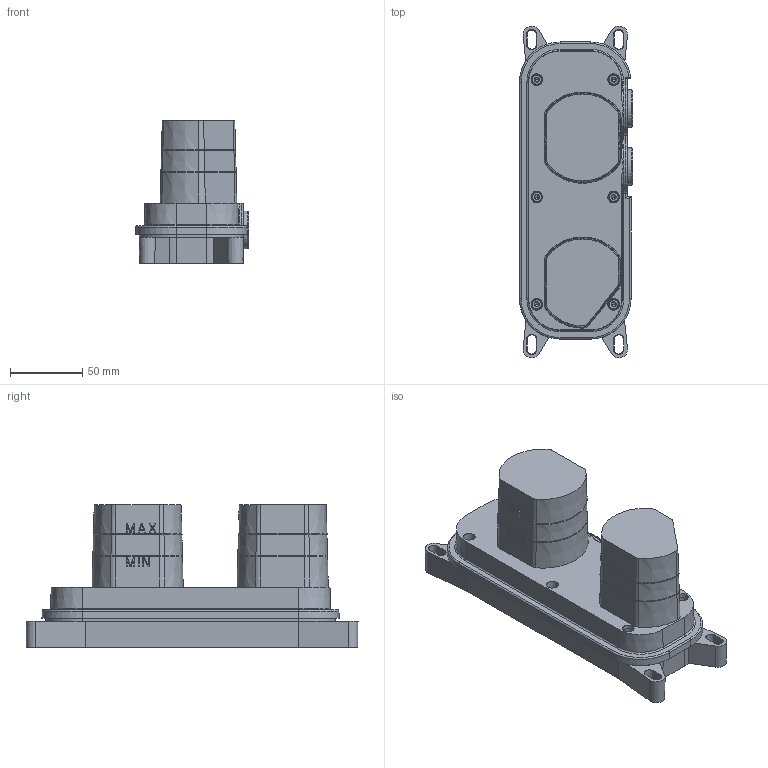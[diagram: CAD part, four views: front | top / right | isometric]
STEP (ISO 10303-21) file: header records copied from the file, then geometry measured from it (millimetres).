
FILE_DESCRIPTION((''),'2;1');
FILE_NAME('47047--00_ASM','2022-10-07T13:30:16',('sosm1'),(''),'CREO PARAMETRIC BY PTC INC, 2018190','CREO PARAMETRIC BY PTC INC, 2018190','');
FILE_SCHEMA(('CONFIG_CONTROL_DESIGN','SHAPE_APPEARANCE_LAYERS_GROUPS'));
Length unit declared in the file: millimetre
Products named in the file (15): 4496285; 4608400_NEW; 06002444; 109244; 4499300_ASM; 4499100; 4611900; 4612385; 4612500_ASM; 4612000; 4612100_ASM; 4612200; 459214; 139171; 47047--00_ASM
Assembly tree (36 placements, depth 3):
  47047--00_ASM
    4496285
    4499300_ASM
      4608400_NEW
      06002444
      109244  x2
    4499100  x4
    4612500_ASM
      4611900
      4612385  x8
    4612000
    4612100_ASM
    4612200  x6
    459214  x2
    139171  x6
Bounding box: 78 x 229 x 98.5 mm (x, y, z)
Volume: 263337.8 mm3; surface area: 218909.1 mm2
Topology: 34 solids, 57 shells, 4096 faces, 10334 edges, 6381 vertices
Faces by surface type: plane 1929, cone 912, cylinder 590, torus 338, bspline 211, sphere 116
Entity records: 78650 total; most frequent: CARTESIAN_POINT 24854, DIRECTION 9084, ORIENTED_EDGE 9034, EDGE_CURVE 4542, AXIS2_PLACEMENT_3D 3772, PRESENTATION_STYLE_ASSIGNMENT 3464, STYLED_ITEM 3463, CURVE_STYLE 3419
